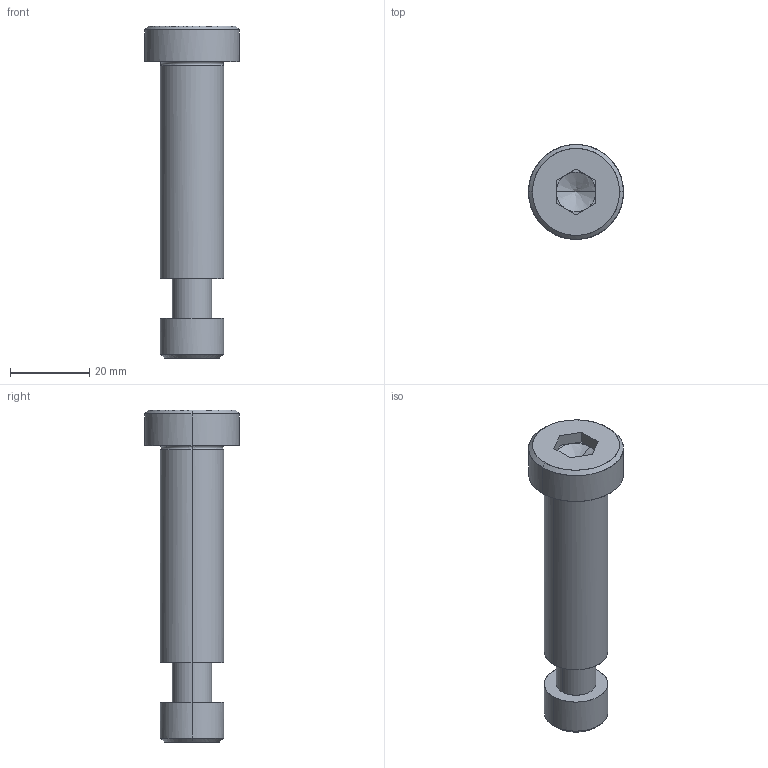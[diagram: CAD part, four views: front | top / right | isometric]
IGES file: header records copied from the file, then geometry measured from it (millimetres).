
Global section: file name: E:\UnigraphicsGraphicData\MISUMI_PRESS-PARTS\IGES\3d_sbtc16-55_05115_r00.igs; native system: NX V5.0; preprocessor: UGS NX IGES V5.0; author: MISUMI; date: 20110105.162447; units: millimetre
Bounding box: 24 x 24 x 84 mm (x, y, z)
Surface area: 7047.5 mm2 (no closed solid volume)
Topology: 0 solids, 0 shells, 52 faces, 286 edges, 282 vertices
Faces by surface type: bspline 52
